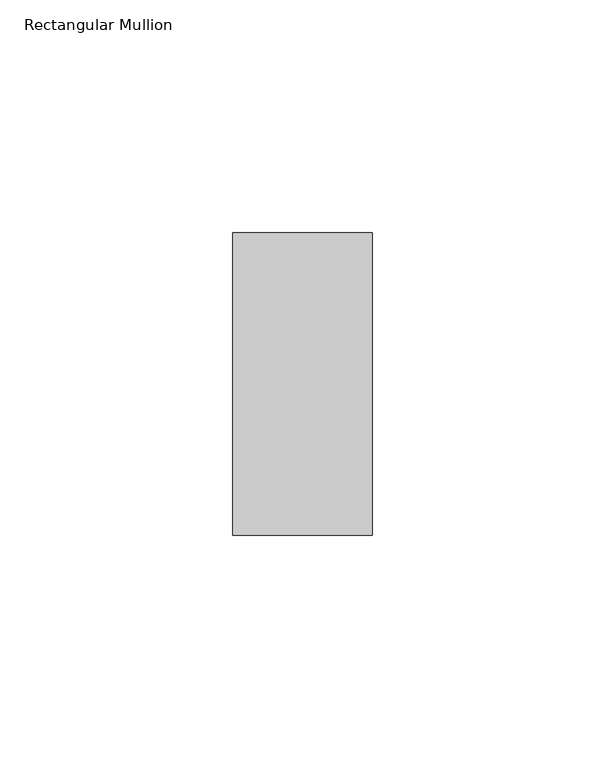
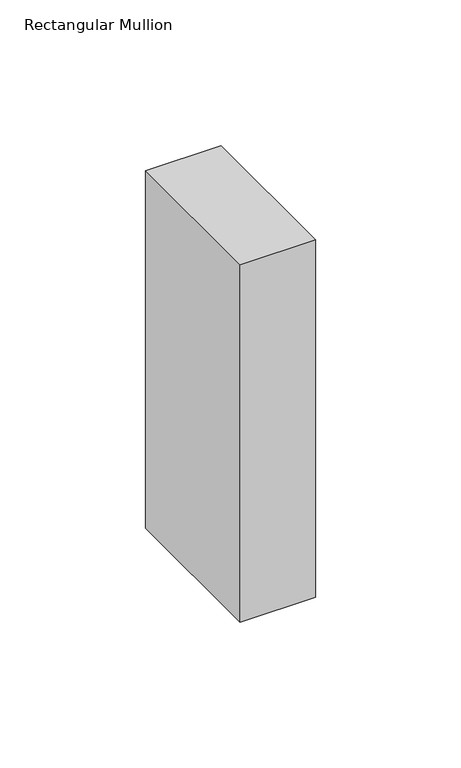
"""IFC4 building model written with IfcOpenShell, lengths in millimetres: member geometry, Rectangular Mullion : Batten_Timber_Modinex_Austratus_Grid_Fascia_30x65_AlaskanYellowCedar."""

import ifcopenshell
import ifcopenshell.guid

model = None  # the IFC model being written
_history = None  # IfcOwnerHistory: only IFC2X3 demands one
_inside = {}  # id of a spatial element -> (the spatial element, [elements in it])
_under = {}  # id of a project, library or spatial element -> (it, [spatial elements below it])
_declared = {}  # id of a project -> (the project, [libraries it declares])
_typed = {}  # id of a type object -> (the type object, [elements of that type])
_made_of = {}  # id of a material, layer set ... -> (it, [elements and type objects made of it])


def new_model(schema):
    """Start an empty IFC model of exactly this schema.

    Asked for "IFC4X3", IfcOpenShell would pick the latest addendum, in which some entities
    have other attributes; the version numbers below select the first issue.
    IFC2X3 requires an IfcOwnerHistory on every rooted entity: one is made here for all.
    """
    global model, _history
    if schema == "IFC4X3":
        model = ifcopenshell.file(schema_version=(4, 3, 0, 0))
    else:
        model = ifcopenshell.file(schema=schema)
    _inside.clear()
    _under.clear()
    _declared.clear()
    _typed.clear()
    _made_of.clear()
    _history = None
    if model.schema == "IFC2X3":
        org = make("IfcOrganization", Name="unknown")
        user = make(
            "IfcPersonAndOrganization",
            ThePerson=make("IfcPerson", FamilyName="unknown"),
            TheOrganization=org,
        )
        app = make(
            "IfcApplication",
            ApplicationDeveloper=org,
            Version="unknown",
            ApplicationFullName="unknown",
            ApplicationIdentifier="unknown",
        )
        _history = make(
            "IfcOwnerHistory",
            OwningUser=user,
            OwningApplication=app,
            ChangeAction="ADDED",
            CreationDate=0,
        )
    return model


def make(cls, **values):
    """One entity of the class cls with the attributes given. An attribute that is None is left unset."""
    return model.create_entity(
        cls, **{name: value for name, value in values.items() if value is not None}
    )


def rooted(cls, **values):
    """An entity with a GlobalId (a new one), such as an element, a storey or a relation."""
    return make(cls, GlobalId=ifcopenshell.guid.new(), OwnerHistory=_history, **values)


def si_unit(unit_type, name, prefix=None):
    """IfcSIUnit, for example si_unit("LENGTHUNIT", "METRE", prefix="MILLI")."""
    return make("IfcSIUnit", UnitType=unit_type, Prefix=prefix, Name=name)


def assignment(units):
    """IfcUnitAssignment: the units of a project."""
    return None if units is None else make("IfcUnitAssignment", Units=units)


def point(xyz):
    """IfcCartesianPoint."""
    return None if xyz is None else make("IfcCartesianPoint", Coordinates=xyz)


def direction(xyz):
    """IfcDirection."""
    return None if xyz is None else make("IfcDirection", DirectionRatios=xyz)


def frame(location, z_axis=None, x_axis=None):
    """IfcAxis2Placement3D, a coordinate frame: its origin and axes. An axis left out is left unset."""
    return make(
        "IfcAxis2Placement3D",
        Location=point(location),
        Axis=direction(z_axis),
        RefDirection=direction(x_axis),
    )


def origin():
    """The frame at (0, 0, 0) with its axes left unset."""
    return frame((0.0, 0.0, 0.0))


def place(relative_to, where):
    """IfcLocalPlacement: puts the frame where relative to a parent placement (None: the world)."""
    return make(
        "IfcLocalPlacement", PlacementRelTo=relative_to, RelativePlacement=where
    )


def context(
    kind, dimensions, precision=None, world=None, true_north=None, identifier=None
):
    """IfcGeometricRepresentationContext, for example the 3D "Model" context."""
    return make(
        "IfcGeometricRepresentationContext",
        ContextIdentifier=identifier,
        ContextType=kind,
        CoordinateSpaceDimension=dimensions,
        Precision=precision,
        WorldCoordinateSystem=world,
        TrueNorth=true_north,
    )


def project(units=None, contexts=None):
    """IfcProject with its units and contexts."""
    return rooted(
        "IfcProject",
        Name="project",
        RepresentationContexts=contexts,
        UnitsInContext=assignment(units),
    )


def spatial(cls, under=None, at=None, **own):
    """A site, building, storey or space (cls), placed at a placement, below another one or the project."""
    s = rooted(cls, ObjectPlacement=at, **own)
    if under is not None:
        _under.setdefault(under.id(), (under, []))[1].append(s)
    return s


def polyline(points):
    """IfcPolyline through the points."""
    return make("IfcPolyline", Points=[point(p) for p in points])


def outline(outer, holes=None, kind="AREA"):
    """IfcArbitraryClosedProfileDef: a profile drawn as a closed curve; with holes, ...WithVoids."""
    if holes is None:
        return make("IfcArbitraryClosedProfileDef", ProfileType=kind, OuterCurve=outer)
    return make(
        "IfcArbitraryProfileDefWithVoids",
        ProfileType=kind,
        OuterCurve=outer,
        InnerCurves=holes,
    )


def extrude(swept, where, along, depth):
    """IfcExtrudedAreaSolid: the profile swept, set in the frame where, extruded along a direction by depth."""
    return make(
        "IfcExtrudedAreaSolid",
        SweptArea=swept,
        Position=where,
        ExtrudedDirection=direction(along),
        Depth=depth,
    )


def shape(context_of_items, identifier, shape_type, items):
    """IfcShapeRepresentation: the items that make up one representation, for example the "Body"."""
    return make(
        "IfcShapeRepresentation",
        ContextOfItems=context_of_items,
        RepresentationIdentifier=identifier,
        RepresentationType=shape_type,
        Items=items,
    )


def source(mapping_origin, context_of_items, identifier, shape_type, items):
    """IfcRepresentationMap: a shape defined once, which mapped items show again and again."""
    return make(
        "IfcRepresentationMap",
        MappingOrigin=mapping_origin,
        MappedRepresentation=shape(context_of_items, identifier, shape_type, items),
    )


def transform(
    local_origin,
    x_axis=None,
    y_axis=None,
    z_axis=None,
    scale=None,
    scale2=None,
    scale3=None,
    uniform=True,
):
    """IfcCartesianTransformationOperator3D, or its non-uniform kind. x_axis, y_axis, z_axis: its Axis1, 2, 3."""
    if uniform:
        return make(
            "IfcCartesianTransformationOperator3D",
            Axis1=direction(x_axis),
            Axis2=direction(y_axis),
            LocalOrigin=point(local_origin),
            Scale=scale,
            Axis3=direction(z_axis),
        )
    return make(
        "IfcCartesianTransformationOperator3DnonUniform",
        Axis1=direction(x_axis),
        Axis2=direction(y_axis),
        LocalOrigin=point(local_origin),
        Scale=scale,
        Axis3=direction(z_axis),
        Scale2=scale2,
        Scale3=scale3,
    )


def mapped(mapping_source, mapping_target):
    """IfcMappedItem: shows the shape of a source again, moved by a transform."""
    return make(
        "IfcMappedItem", MappingSource=mapping_source, MappingTarget=mapping_target
    )


def made_of(thing, what):
    """Note that an element or type object is made of a material, layer set ...; save() writes the relation."""
    if what is not None:
        _made_of.setdefault(what.id(), (what, []))[1].append(thing)
    return thing


def element(
    cls,
    number,
    at=None,
    inside=None,
    cuts=None,
    type_object=None,
    material=None,
    context=None,
    identifier="Body",
    shape_type=None,
    held_by="IfcProductDefinitionShape",
    body=None,
    shapes=None,
    **own,
):
    """One element of the class cls, such as IfcWall. Its Tag is "e" and its number.

    at: its placement. inside: the storey or other place that contains it. cuts: it is an
    opening in that element (IfcRelVoidsElement). A single representation is given by context,
    identifier, shape_type and body (its items); several are given by shapes. held_by: the class
    of the entity that holds the representations. save() writes the other relations.
    """
    e = rooted(cls, Tag="e%d" % number, ObjectPlacement=at, **own)
    if body is not None:
        shapes = [shape(context, identifier, shape_type, body)]
    if shapes is not None:
        e.Representation = make(held_by, Representations=shapes)
    if inside is not None:
        _inside.setdefault(inside.id(), (inside, []))[1].append(e)
    if cuts is not None:
        rooted(
            "IfcRelVoidsElement", RelatingBuildingElement=cuts, RelatedOpeningElement=e
        )
    if type_object is not None:
        _typed.setdefault(type_object.id(), (type_object, []))[1].append(e)
    return made_of(e, material)


def aggregate(whole, parts):
    """IfcRelAggregates: a whole, such as a stair, and the parts it consists of."""
    return rooted("IfcRelAggregates", RelatingObject=whole, RelatedObjects=parts)


def save(model, path):
    """Write the relations noted so far, then the file.

    IfcRelAggregates (storeys below a building ...), IfcRelContainedInSpatialStructure (elements
    in a storey), IfcRelDefinesByType, IfcRelAssociatesMaterial and IfcRelDeclares: one each for
    every whole, place, type object, material and project.
    """
    for whole, parts in _under.values():
        aggregate(whole, parts)
    for where, things in _inside.values():
        rooted(
            "IfcRelContainedInSpatialStructure",
            RelatedElements=things,
            RelatingStructure=where,
        )
    for kind, things in _typed.values():
        rooted("IfcRelDefinesByType", RelatedObjects=things, RelatingType=kind)
    for what, things in _made_of.values():
        rooted("IfcRelAssociatesMaterial", RelatedObjects=things, RelatingMaterial=what)
    for by, libraries in _declared.values():
        rooted("IfcRelDeclares", RelatingContext=by, RelatedDefinitions=libraries)
    model.write(path)


def rectangular_mullion_5b501421(model_context):
    return source(origin(), model_context, "Body", "SweptSolid", [
        extrude(outline(polyline([(-15.0, 65.0), (15.0, 65.0), (15.0, 0.0), (-15.0, 0.0), (-15.0, 65.0)])), frame((0.0, 0.0, -150.0), z_axis=(0.0, 0.0, 1.0), x_axis=(1.0, 0.0, 0.0)), (0.0, 0.0, 1.0), 150.0),
    ])


if __name__ == "__main__":
    model = new_model("IFC4")
    model_context = context("Model", 3, world=origin())
    ifc_project = project(units=[si_unit("LENGTHUNIT", "METRE", prefix="MILLI")], contexts=[model_context])
    site = spatial("IfcSite", under=ifc_project)
    building = spatial("IfcBuilding", under=site)
    placement = place(None, origin())
    rectangular_mullion_shape = rectangular_mullion_5b501421(model_context)
    element("IfcMember", 1, ObjectType="Rectangular Mullion : Batten_Timber_Modinex_Austratus_Grid_Fascia_30x65_AlaskanYellowCedar", at=placement, inside=building, context=model_context, shape_type="MappedRepresentation", body=[
        mapped(rectangular_mullion_shape, transform((0.0, 0.0, 0.0), x_axis=(1.0, 0.0, 0.0), y_axis=(0.0, 1.0, 0.0), z_axis=(0.0, 0.0, 1.0))),
    ])
    save(model, "model.ifc")
